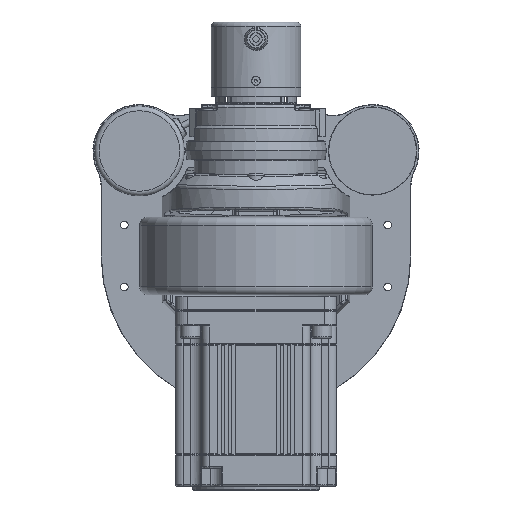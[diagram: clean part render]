
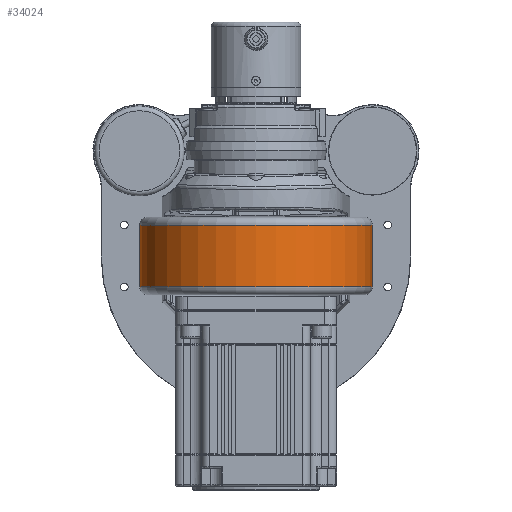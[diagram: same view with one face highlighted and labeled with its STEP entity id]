
A CAD part, front view. The second image highlights one B-rep face of the part: STEP entity #34024.
In plain terms, the highlighted cylindrical face has radius 75 mm (diameter 150 mm), a full revolution.
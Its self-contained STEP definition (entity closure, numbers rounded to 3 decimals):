
#3126 = EDGE_CURVE ( 'NONE', #85969, #85969, #31902, .T. ) ;
#4857 = DIRECTION ( 'NONE',  ( 0., 0., 1. ) ) ;
#6566 = EDGE_CURVE ( 'NONE', #88782, #88782, #99346, .T. ) ;
#8214 = EDGE_LOOP ( 'NONE', ( #68259 ) ) ;
#9901 = ORIENTED_EDGE ( 'NONE', *, *, #6566, .T. ) ;
#14823 = CARTESIAN_POINT ( 'NONE',  ( -48.529, 31.583, 215.703 ) ) ;
#24999 = AXIS2_PLACEMENT_3D ( 'NONE', #65434, #83913, #83164 ) ;
#25064 = EDGE_LOOP ( 'NONE', ( #9901 ) ) ;
#27510 = DIRECTION ( 'NONE',  ( -1., 0., 0. ) ) ;
#31902 = CIRCLE ( 'NONE', #39844, 75. ) ;
#34024 = ADVANCED_FACE ( 'NONE', ( #105764, #77501 ), #57751, .T. ) ;
#39844 = AXIS2_PLACEMENT_3D ( 'NONE', #117286, #90288, #27510 ) ;
#57751 = CYLINDRICAL_SURFACE ( 'NONE', #24999, 75. ) ;
#65434 = CARTESIAN_POINT ( 'NONE',  ( -48.529, 31.583, 210.703 ) ) ;
#68070 = DIRECTION ( 'NONE',  ( -1., 0., 0. ) ) ;
#68259 = ORIENTED_EDGE ( 'NONE', *, *, #3126, .T. ) ;
#77501 = FACE_OUTER_BOUND ( 'NONE', #25064, .T. ) ;
#79518 = AXIS2_PLACEMENT_3D ( 'NONE', #14823, #4857, #68070 ) ;
#83164 = DIRECTION ( 'NONE',  ( 1., 0., 0. ) ) ;
#83913 = DIRECTION ( 'NONE',  ( 0., 0., 1. ) ) ;
#85969 = VERTEX_POINT ( 'NONE', #116213 ) ;
#88782 = VERTEX_POINT ( 'NONE', #90400 ) ;
#90288 = DIRECTION ( 'NONE',  ( 0., 0., -1. ) ) ;
#90400 = CARTESIAN_POINT ( 'NONE',  ( -123.529, 31.583, 215.703 ) ) ;
#99346 = CIRCLE ( 'NONE', #79518, 75. ) ;
#105764 = FACE_OUTER_BOUND ( 'NONE', #8214, .T. ) ;
#116213 = CARTESIAN_POINT ( 'NONE',  ( -123.529, 31.583, 255.703 ) ) ;
#117286 = CARTESIAN_POINT ( 'NONE',  ( -48.529, 31.583, 255.703 ) ) ;
